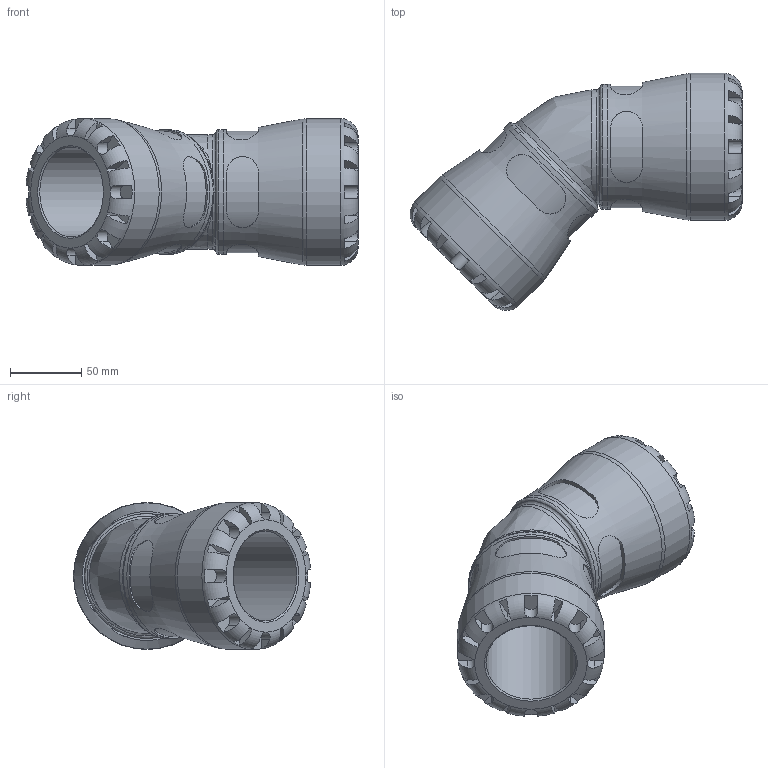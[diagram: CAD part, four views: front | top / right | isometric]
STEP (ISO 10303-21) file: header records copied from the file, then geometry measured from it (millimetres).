
FILE_DESCRIPTION(/* description */ ('PLASSON 45° ELBOW 63-63 SERIES 1'),/* implementation_level */ '2;1');
FILE_NAME(/* name */ 'C:\Dropbox\KIMPROJECTS-Inventor\99-16-3568-Processing\1006\100600063_190600063.ipt.stp',/* time_stamp */ '2017-01-22T11:45:35+02:00',/* author */ ('KIM'),/* organization */ (''),/* preprocessor_version */ 'ST-DEVELOPER v15.6',/* originating_system */ 'Autodesk Inventor 2015',/* authorisation */ '');
FILE_SCHEMA (('AUTOMOTIVE_DESIGN { 1 0 10303 214 3 1 1 }'));
Length unit declared in the file: millimetre
Products named in the file (1): 100600063_190600063
Bounding box: 232.65 x 166.15 x 103 mm (x, y, z)
Volume: 907390.2 mm3; surface area: 131503.3 mm2
Topology: 1 solids, 1 shells, 196 faces, 498 edges, 310 vertices
Faces by surface type: plane 116, cylinder 66, torus 11, cone 2, bspline 1
Full cylindrical faces by diameter (mm): 52.5 x2, 63 x2, 87.55 x2, 103 x2
Entity records: 7616 total; most frequent: CARTESIAN_POINT 2977, ORIENTED_EDGE 922, DIRECTION 896, EDGE_CURVE 461, AXIS2_PLACEMENT_3D 368, VERTEX_POINT 298, EDGE_LOOP 229, STYLED_ITEM 197
